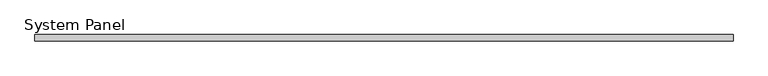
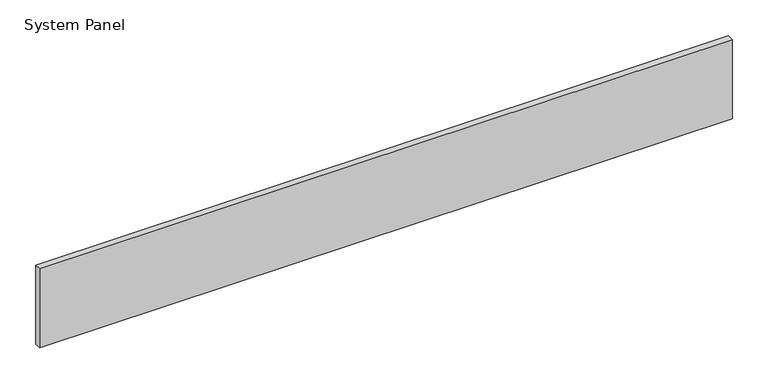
"""IFC4 building model written with IfcOpenShell, lengths in millimetres: plate geometry, System Panel : VACÍO."""

from ifc_helpers import new_model, si_unit, origin, origin_with_axes, place, context, project, spatial, polyline, outline, extrude, source, transform, mapped, element, save


def system_panel_b47d8e37(model_context):
    return source(origin(), model_context, "Body", "SweptSolid", [
        extrude(outline(polyline([(555.4173919, -5.0), (-555.4173919, -5.0), (-555.4173919, 5.0), (555.4173919, 5.0), (555.4173919, -5.0)])), origin_with_axes(), (0.0, 0.0, 1.0), 134.0),
    ])


if __name__ == "__main__":
    model = new_model("IFC4")
    model_context = context("Model", 3, world=origin())
    ifc_project = project(units=[si_unit("LENGTHUNIT", "METRE", prefix="MILLI")], contexts=[model_context])
    site = spatial("IfcSite", under=ifc_project)
    building = spatial("IfcBuilding", under=site)
    placement = place(None, origin())
    system_panel_shape = system_panel_b47d8e37(model_context)
    element("IfcPlate", 1, ObjectType="System Panel : VACÍO", at=placement, inside=building, context=model_context, shape_type="MappedRepresentation", body=[
        mapped(system_panel_shape, transform((0.0, 0.0, 0.0), x_axis=(1.0, 0.0, 0.0), y_axis=(0.0, 1.0, 0.0), z_axis=(0.0, 0.0, 1.0))),
    ])
    save(model, "model.ifc")
